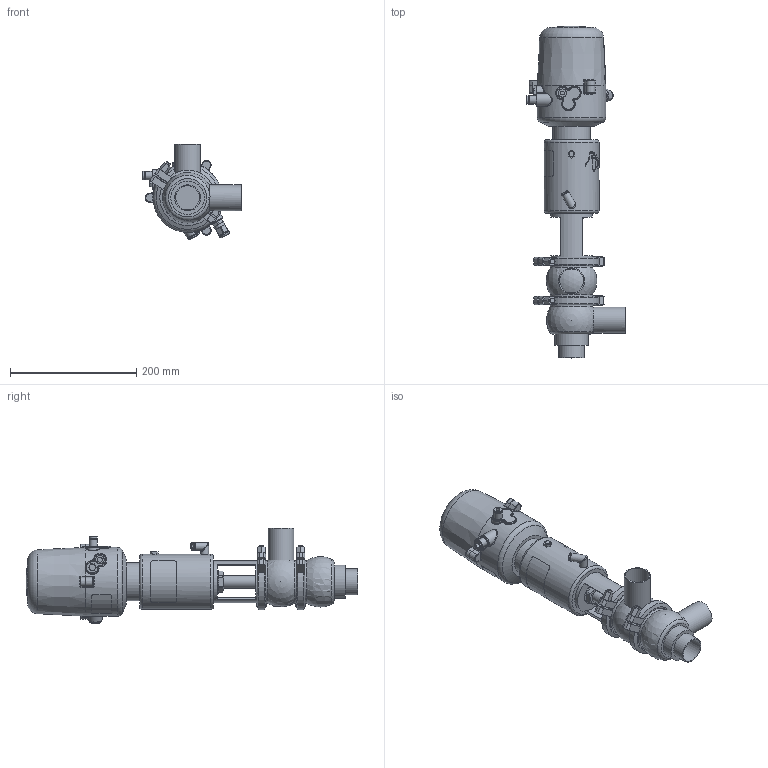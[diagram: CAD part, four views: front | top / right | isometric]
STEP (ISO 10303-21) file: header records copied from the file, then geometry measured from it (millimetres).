
FILE_DESCRIPTION (( 'STEP AP214' ), '1' );
FILE_NAME ('INNOVA K H W DIN 040 T1 AS NC & C-TOP S_10.240.16.0073.STEP', '2024-08-06T08:52:54', ( '' ), ( '' ), 'SwSTEP 2.0', 'SolidWorks 2023', '' );
FILE_SCHEMA (( 'AUTOMOTIVE_DESIGN' ));
Length unit declared in the file: millimetre
Products named in the file (8): 10.240.15.0006_DIN 040; 10.240.15.0010_DN 040; 10.240.15.0002_DIN 040; 10.426.15.0001_C-TOP S - 1 EV; INNOVA K H W DIN 040 T1 AS NC & C-TOP S_10.240.16.0073; 10.240.15.0001_DN 040; 10.240.15.0014_T1 AS P0; 10.240.15.0017_Estàndard
Assembly tree (8 placements, depth 2):
  INNOVA K H W DIN 040 T1 AS NC & C-TOP S_10.240.16.0073
    10.240.15.0006_DIN 040
    10.240.15.0002_DIN 040
    10.240.15.0010_DN 040
    10.240.15.0014_T1 AS P0
    10.240.15.0017_Estàndard
    10.426.15.0001_C-TOP S - 1 EV
    10.240.15.0001_DN 040  x2
Bounding box: 156 x 526 x 151.63 mm (x, y, z)
Volume: 2866212.4 mm3; surface area: 280969.5 mm2
Topology: 8 solids, 8 shells, 1173 faces, 2833 edges, 1886 vertices
Faces by surface type: plane 410, cylinder 356, cone 201, bspline 160, torus 38, sphere 8
Full cylindrical faces by diameter (mm): 0.371 x17, 0.512 x16, 0.658 x16, 0.795 x16, 0.94 x15, 1.098 x15, 1.241 x13, 1.382 x13, 1.523 x11, 1.669 x10, 2.201 x1, 4 x2, 5.5 x2, 6 x2, 6.15 x1, 8 x6, 8.5 x1, 10 x1, 10.5 x1, 11 x2, 12.5 x3, 13 x2, 13.5 x2, 16 x1, 17 x3, 20 x3, 20.5 x1, 22 x2, 31 x1, 34.5 x3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
Entity records: 56989 total; most frequent: CARTESIAN_POINT 26773, ORIENTED_EDGE 4514, DIRECTION 3651, EDGE_CURVE 2257, VERTEX_POINT 1606, EDGE_LOOP 1571, AXIS2_PLACEMENT_3D 1497, FACE_OUTER_BOUND 1332
